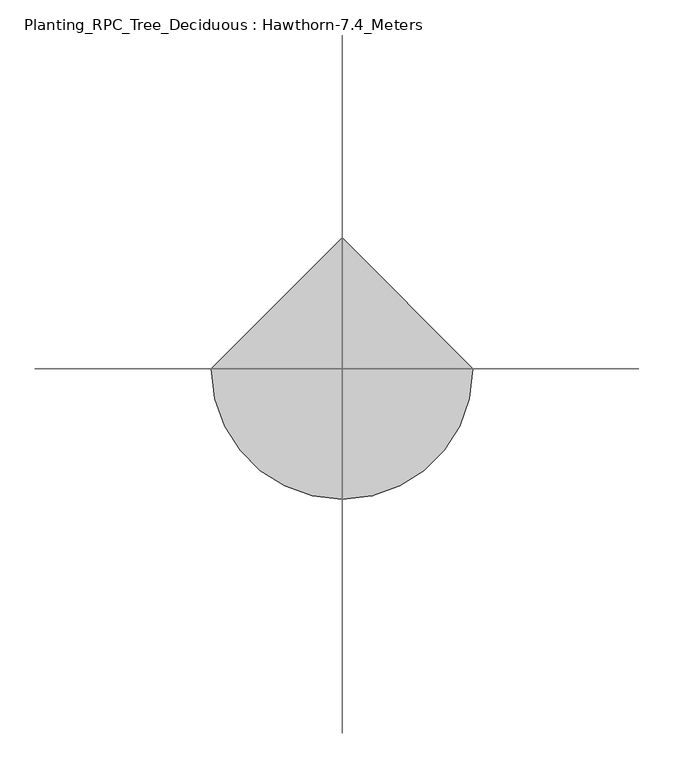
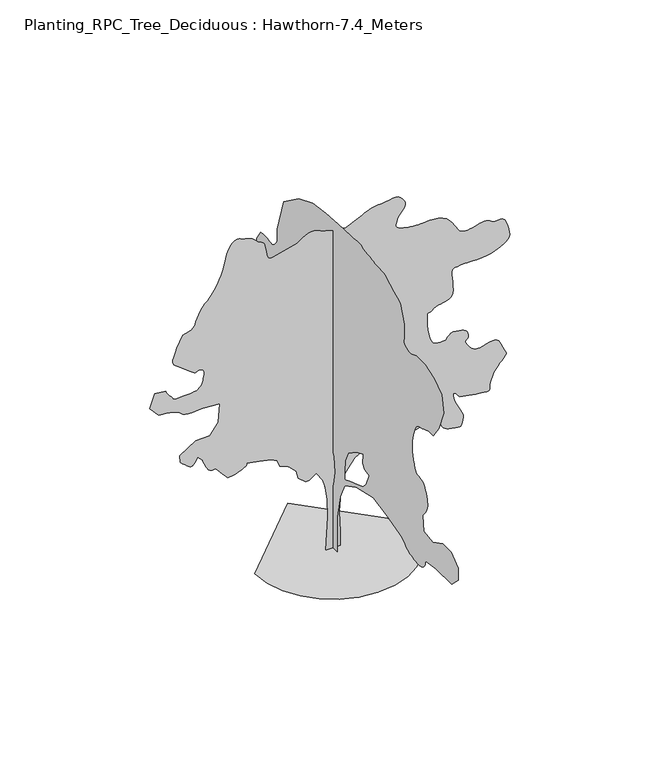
"""IFC4 building model written with IfcOpenShell, lengths in millimetres: geographic element geometry, Planting_RPC_Tree_Deciduous : Hawthorn-7.4_Meters."""

from ifc_helpers import new_model, si_unit, origin, place, context, project, spatial, triangles, source, transform, mapped, element, save


def planting_rpc_tree_deciduous_hawthorn_7_4_meters_c28d403f(model_context):
    return source(origin(), model_context, "Body", "Tessellation", [
        triangles([(154.5387321, 0.0003833, 0.0187505), (-149.642156, 0.0003833, 0.0187505), (-106.1871776, 0.0003405, 717.0148825), (-117.051113, 0.0003185, 1086.3780928), (-160.5051012, 0.0003017, 1368.8308376), (-203.9600796, 0.0002913, 1542.6492977), (-345.1849986, 0.0002797, 1738.1941933), (-486.4138418, 0.0002855, 1640.4205101), (-562.4586551, 0.0002862, 1629.557365), (-714.5482452, 0.0002784, 1759.9204834), (-758.0034416, 0.000268, 1933.7389435), (-910.0929955, 0.000259, 2085.8284973), (-1094.7746733, 0.0002544, 2161.8732742), (-1149.0930147, 0.0002467, 2292.2365379), (-1268.5930607, 0.0002428, 2357.4181698), (-1518.4538269, 0.0002395, 2411.7365112), (-1768.3170639, 0.0002369, 2455.1893822), (-1766.353521, 0.0002375, 2445.7838516), (-1766.5756004, 0.0002381, 2435.806263), (-1771.1684887, 0.0002388, 2424.6889183), (-1782.3178082, 0.0002395, 2411.8623756), (-1802.2065651, 0.0002404, 2396.7539955), (-1833.0250328, 0.0002415, 2378.7966614), (-1876.9538921, 0.0002428, 2357.4181698), (-1925.9491573, 0.000244, 2336.6735058), (-1970.9560032, 0.000245, 2320.4872845), (-2012.6351452, 0.0002457, 2308.1046101), (-2051.6577633, 0.0002463, 2298.760849), (-2088.6823929, 0.0002467, 2291.6987801), (-2124.375127, 0.000247, 2286.1562405), (-2159.4067097, 0.0002473, 2281.3732475), (-2278.906683, 0.0002395, 2411.7365112), (-2409.2698013, 0.0002305, 2563.8260651), (-2434.8615532, 0.0002307, 2559.4600525), (-2460.3567993, 0.0002309, 2556.7959709), (-2485.6575806, 0.0002308, 2557.5607498), (-2510.6941338, 0.0002305, 2563.4560295), (-2535.3362343, 0.0002297, 2576.1840317), (-2559.4847603, 0.0002285, 2597.4713951), (-2583.0908775, 0.0002266, 2628.995343), (-2604.4767815, 0.0002244, 2664.9841347), (-2622.4341156, 0.0002224, 2698.6785896), (-2637.5299965, 0.0002205, 2730.4740326), (-2650.3565392, 0.0002187, 2760.7646255), (-2661.4814415, 0.000217, 2789.8959869), (-2671.4465309, 0.0002153, 2818.2872772), (-2680.8692116, 0.0002136, 2846.2838242), (-2778.6231285, 0.0002078, 2944.0624489), (-2843.8171143, 0.0002136, 2846.2838242), (-2855.5832565, 0.0002147, 2827.9317467), (-2868.2371353, 0.0002157, 2811.3065987), (-2882.568528, 0.0002165, 2798.1097298), (-2899.4898788, 0.000217, 2790.0192352), (-2919.8150917, 0.0002171, 2788.7858803), (-2944.4324844, 0.0002166, 2796.1118866), (-2974.180378, 0.0002156, 2813.6991852), (-3007.1350525, 0.0002141, 2838.6124901), (-3039.7443993, 0.0002125, 2865.4498055), (-3070.2323639, 0.0002109, 2892.0897491), (-3096.9461403, 0.0002094, 2916.4356468), (-3118.1349632, 0.0002083, 2936.4158226), (-3132.0963203, 0.0002074, 2949.9330208), (-3137.1282806, 0.0002072, 2954.9158562), (-3147.9813972, 0.0001981, 3107.0103516), (-2822.0858826, 0.0001858, 3313.4207176), (-2528.7747162, 0.0001851, 3324.2741249), (-2354.9514599, 0.0001715, 3552.4157227), (-2322.3594086, 0.0001482, 3943.5055138), (-2680.8692116, 0.0001463, 3976.0901527), (-2757.4098885, 0.0001468, 3967.0866325), (-2832.3471748, 0.0001472, 3960.0074135), (-2904.0529724, 0.0001474, 3956.702092), (-2970.924472, 0.0001473, 3959.1193863), (-3031.3082863, 0.0001467, 3969.1338913), (-3083.6263138, 0.0001455, 3988.6452003), (-3126.2748734, 0.0001437, 4019.5526161), (-3169.2196358, 0.0001417, 4052.6799545), (-3222.4253998, 0.0001402, 4078.3824554), (-3284.1908157, 0.000139, 4097.9431801), (-3352.7886635, 0.0001382, 4112.5457771), (-3426.5173027, 0.0001375, 4123.4238922), (-3503.6745117, 0.000137, 4131.8600052), (-3582.5336517, 0.0001366, 4139.0377647), (-3767.2127861, 0.0001243, 4345.4484215), (-3658.5810448, 0.0001074, 4627.9061806), (-3441.3172714, 0.0001087, 4606.1746582), (-3427.2817909, 0.0001103, 4580.6201134), (-3412.8765656, 0.0001118, 4555.3367729), (-3397.7065613, 0.0001132, 4530.6455475), (-3381.3773254, 0.0001147, 4506.7929337), (-3363.5432396, 0.000116, 4484.0748436), (-3343.8098511, 0.0001173, 4462.812188), (-3321.807415, 0.0001184, 4443.2267555), (-3305.3052246, 0.0001195, 4424.7517204), (-3297.5600578, 0.0001206, 4407.2382545), (-3291.3194504, 0.0001215, 4391.624382), (-3279.3806442, 0.0001223, 4378.8716721), (-3254.5167549, 0.0001228, 4369.9175674), (-3209.5000259, 0.0001231, 4365.699511), (-3137.1282806, 0.000123, 4367.1796532), (-3056.9122467, 0.0001227, 4371.8415779), (-2991.4964722, 0.0001224, 4376.5035027), (-2938.4383736, 0.0001221, 4381.1410103), (-2895.2718224, 0.0001219, 4385.802935), (-2859.529818, 0.0001216, 4390.4648598), (-2828.6965256, 0.0001213, 4395.1270752), (-2800.3546509, 0.000121, 4399.7642921), (-2772.6046005, 0.0001198, 4420.8295761), (-2746.0137817, 0.0001185, 4442.5608078), (-2721.6925919, 0.0001171, 4465.6242256), (-2700.775264, 0.0001156, 4490.6607788), (-2684.4460281, 0.000114, 4518.3861214), (-2673.7899925, 0.0001121, 4549.4167854), (-2669.9913872, 0.00011, 4584.4434265), (-2666.1433662, 0.0001077, 4623.3427963), (-2657.7072533, 0.0001053, 4664.1414688), (-2649.4688026, 0.0001029, 4704.7427696), (-2646.1878983, 0.0001006, 4743.0747322), (-2652.5767525, 9.85e-05, 4777.0159744), (-2673.419957, 9.69e-05, 4804.5192375), (-2713.4538506, 9.58e-05, 4823.4631393), (-2753.6112831, 9.55e-05, 4827.7059036), (-2778.0065964, 9.61e-05, 4818.8259224), (-2796.1118866, 9.68e-05, 4806.3444168), (-2817.4730827, 9.72e-05, 4799.7584816), (-2851.5378639, 9.67e-05, 4808.5646301), (-2907.8518684, 9.47e-05, 4842.2590851), (-2995.9116096, 9.06e-05, 4910.363649), (-3093.616111, 8.61e-05, 4986.2136703), (-3172.3275856, 8.27e-05, 5042.3055954), (-3231.6507088, 8.01e-05, 5086.8040421), (-3271.1913185, 7.76e-05, 5127.8986267), (-3290.6040871, 7.49e-05, 5173.7045517), (-3289.4939804, 7.14e-05, 5232.460849), (-3267.4915443, 6.66e-05, 5312.3065567), (-3236.1646774, 6.15e-05, 5397.8257553), (-3207.1321472, 5.73e-05, 5469.6550919), (-3179.9742119, 5.37e-05, 5530.0886124), (-3154.3702515, 5.06e-05, 5581.3953644), (-3129.876107, 4.8e-05, 5625.8688126), (-3106.1470322, 4.56e-05, 5665.7797485), (-3082.8121193, 4.33e-05, 5703.3960571), (-3038.7575409, 4.28e-05, 5712.9669846), (-2995.7389458, 4.21e-05, 5724.0424713), (-2954.817025, 4.13e-05, 5738.1764923), (-2917.0277618, 4.01e-05, 5756.8736069), (-2883.4318474, 3.87e-05, 5781.6389557), (-2855.0652649, 3.67e-05, 5814.0015152), (-2832.9392899, 3.43e-05, 5855.4908432), (-2817.1771706, 3.18e-05, 5897.3749146), (-2805.2139473, 2.97e-05, 5932.401265), (-2794.1878761, 2.78e-05, 5964.3940796), (-2781.2625023, 2.58e-05, 5997.126384), (-2763.5766632, 2.36e-05, 6034.4473618), (-2738.3180305, 2.09e-05, 6080.10504), (-2702.5760262, 1.74e-05, 6137.9486023), (-2665.3294624, 1.43e-05, 6190.7349152), (-2634.7426666, 1.22e-05, 6225.120607), (-2606.8199524, 1.07e-05, 6250.5516129), (-2577.5406349, 9.2e-06, 6276.5506073), (-2542.9581528, 7e-06, 6312.612941), (-2499.0515305, 3.7e-06, 6368.2607071), (-2441.8593819, -1.3e-06, 6452.9910004), (-2383.0122471, -7.2e-06, 6551.6820694), (-2335.5683407, -1.27e-05, 6643.9107422), (-2297.6237091, -1.79e-05, 6731.2059952), (-2267.2812298, -2.29e-05, 6815.0723877), (-2242.6392746, -2.78e-05, 6897.0400589), (-2221.8008663, -3.27e-05, 6978.6368225), (-2202.8594353, -3.76e-05, 7061.3439835), (-2179.771455, -4.26e-05, 7144.3970535), (-2148.5114445, -4.72e-05, 7222.8858673), (-2110.218869, -5.14e-05, 7292.248494), (-2066.0359554, -5.47e-05, 7347.9212585), (-2017.1023144, -5.69e-05, 7385.3654846), (-1964.559882, -5.78e-05, 7399.9924988), (-1909.5434727, -5.7e-05, 7387.2647873), (-1854.9734024, -5.56e-05, 7363.9795807), (-1802.870042, -5.47e-05, 7347.3538513), (-1753.0508446, -5.38e-05, 7333.3924942), (-1705.3209091, -5.29e-05, 7318.0992416), (-1659.4902763, -5.17e-05, 7297.4778259), (-1615.3714577, -4.99e-05, 7267.5325607), (-1572.7721684, -4.73e-05, 7224.3165939), (-1533.465992, -4.5e-05, 7185.4666397), (-1499.1028278, -4.38e-05, 7165.0673035), (-1469.2981064, -4.31e-05, 7153.6220718), (-1443.6768505, -4.24e-05, 7141.5850159), (-1421.8543453, -4.11e-05, 7119.4834579), (-1403.4529976, -3.86e-05, 7077.797049), (-1388.0905632, -3.44e-05, 7007.0281128), (-1375.106036, -2.96e-05, 6926.4673325), (-1362.6913868, -2.57e-05, 6861.273056), (-1348.7547375, -2.27e-05, 6810.9284546), (-1331.2092968, -2.05e-05, 6774.8167053), (-1307.9610065, -1.92e-05, 6752.3948181), (-1276.9229301, -1.86e-05, 6743.0703873), (-1236.0010094, -1.88e-05, 6746.3021667), (-736.2770788, -2.66e-05, 6876.6651398), (-678.0613008, -2.91e-05, 6918.1050522), (-619.7543221, -3.14e-05, 6956.6835114), (-561.2549131, -3.33e-05, 6989.5396454), (-502.4718369, -3.48e-05, 7013.8858337), (-443.3064076, -3.55e-05, 7026.7862091), (-383.6674244, -3.55e-05, 7025.4787308), (-323.4585995, -3.44e-05, 7007.0281128), (-263.8837293, -3.28e-05, 6981.3256119), (-206.018257, -3.15e-05, 6959.5943802), (-149.57827, -3.04e-05, 6941.1931778), (-94.2786203, -2.95e-05, 6925.4557663), (-39.8339149, -2.87e-05, 6911.6914902), (14.0404504, -2.79e-05, 6899.2846893), (67.6297655, -2.72e-05, 6887.5429642), (263.1757965, -2.6e-05, 6865.8117325), (567.3549768, -3.37e-05, 6996.1752869), (611.7598246, -3.54e-05, 7023.9247559), (657.2106113, -3.7e-05, 7050.5155746), (704.7506601, -3.84e-05, 7074.8367645), (755.4257647, -3.97e-05, 7095.7540924), (810.2819366, -4.06e-05, 7112.0833282), (870.3648972, -4.13e-05, 7122.7396545), (936.7181871, -4.15e-05, 7126.5382599), (1008.7398811, -4.18e-05, 7131.6687607), (1083.2330812, -4.25e-05, 7143.6319839), (1157.346508, -4.33e-05, 7157.3224274), (1228.2285187, -4.39e-05, 7167.583429), (1293.0303772, -4.4e-05, 7169.2856506), (1348.9002228, -4.33e-05, 7157.3224274), (1392.9893921, -4.15e-05, 7126.5382599), (1427.384531, -3.91e-05, 7086.4302429), (1455.3195992, -3.69e-05, 7049.1836792), (1475.6522243, -3.48e-05, 7013.6637543), (1487.2455574, -3.27e-05, 6978.6862381), (1488.9550461, -3.06e-05, 6943.1418961), (1479.6432598, -2.83e-05, 6905.8953323), (1458.1685532, -2.6e-05, 6865.8117325), (1431.5655258, -2.38e-05, 6829.329657), (1407.6216385, -2.21e-05, 6801.3825256), (1386.3367458, -2.08e-05, 6778.5903122), (1367.713464, -1.95e-05, 6757.5003204), (1351.7516476, -1.81e-05, 6734.6836899), (1338.4489712, -1.65e-05, 6706.761557), (1327.8052895, -1.43e-05, 6670.254483), (1316.5943459, -1.2e-05, 6630.8865372), (1304.6235649, -9.9e-06, 6596.0822662), (1296.4515347, -8e-06, 6565.0760193), (1296.641494, -6.4e-06, 6537.1038895), (1309.7543564, -4.8e-06, 6511.426387), (1340.3482738, -3.4e-06, 6487.2528625), (1392.9893921, -2e-06, 6463.8444077), (1459.1822994, -8e-07, 6443.7409836), (1526.1375149, 1e-07, 6429.3354675), (1591.9529743, 6e-07, 6419.6662903), (1654.727195, 1e-06, 6413.8201355), (1712.5605835, 1.2e-06, 6410.8110168), (1763.5538372, 1.2e-06, 6409.7012009), (1805.805328, 1.2e-06, 6409.528537), (1853.5354088, 1.1e-06, 6412.1673294), (1918.9389748, 8e-07, 6417.2734131), (1997.0730137, 6e-07, 6420.652858), (2082.9993095, 7e-07, 6418.161731), (2171.7770302, 1.5e-06, 6405.5816849), (2258.4628727, 3.1e-06, 6378.7443695), (2338.1213825, 5.8e-06, 6333.4808533), (2404.5683441, 9.3e-06, 6273.6641556), (2457.3351814, 1.32e-05, 6208.69254), (2500.0380981, 1.71e-05, 6142.7831909), (2536.2733864, 2.09e-05, 6080.10504), (2569.6475121, 2.42e-05, 6024.8520172), (2603.7861259, 2.68e-05, 5981.1674744), (2642.2907524, 2.84e-05, 5953.2691772), (2685.4820114, 2.93e-05, 5939.3822342), (2730.9179008, 2.96e-05, 5934.0784882), (2778.2778008, 2.95e-05, 5935.879541), (2827.1425507, 2.9e-05, 5943.3779205), (2877.1418243, 2.83e-05, 5955.1684799), (2927.930294, 2.75e-05, 5969.7960754), (2979.0643822, 2.65e-05, 5985.8538162), (3025.5115471, 2.6e-05, 5994.8817535), (3071.169516, 2.55e-05, 6002.2080505), (3115.3229256, 2.53e-05, 6006.1054871), (3157.2067062, 2.54e-05, 6004.8718414), (3196.0322433, 2.58e-05, 5996.7810562), (3231.0588844, 2.68e-05, 5980.1559082), (3261.5221413, 2.84e-05, 5953.2691772), (3295.4880913, 2.96e-05, 5933.5360794), (3338.9261375, 2.97e-05, 5932.4262634), (3388.0865089, 2.93e-05, 5939.3078201), (3439.1464737, 2.9e-05, 5943.5011688), (3488.3071358, 2.96e-05, 5934.4238159), (3531.745182, 3.15e-05, 5901.3955994), (3565.711132, 3.56e-05, 5833.7596115), (3592.474324, 4.06e-05, 5749.3008133), (3614.8717941, 4.52e-05, 5672.809552), (3629.8444267, 4.92e-05, 5604.3102448), (3634.3831032, 5.28e-05, 5543.7784744), (3625.4042908, 5.6e-05, 5491.2386581), (3599.9238693, 5.86e-05, 5446.6657974), (3554.833017, 6.08e-05, 5410.0854721), (3500.9613052, 6.27e-05, 5377.6484985), (3448.4211983, 6.46e-05, 5346.1742569), (3393.2173004, 6.64e-05, 5316.5987366), (3331.353344, 6.8e-05, 5289.8602524), (3258.8580597, 6.93e-05, 5266.9197922), (3171.7354706, 7.04e-05, 5248.7406693), (3065.9895996, 7.12e-05, 5236.2594543), (2962.6116074, 7.15e-05, 5229.969722), (2881.4584213, 7.16e-05, 5228.4151657), (2816.8565506, 7.16e-05, 5229.722644), (2763.0586716, 7.14e-05, 5231.9672745), (2714.4160011, 7.14e-05, 5233.2503357), (2665.2059235, 7.14e-05, 5231.6963608), (2609.7061134, 7.18e-05, 5225.4060471), (2556.2041466, 7.22e-05, 5218.7215714), (2515.6522614, 7.25e-05, 5214.5032242), (2486.2741127, 7.28e-05, 5208.5832367), (2466.4250336, 7.35e-05, 5196.7682602), (2454.3580376, 7.48e-05, 5174.8887817), (2448.3714844, 7.7e-05, 5138.752034), (2446.7558853, 8.02e-05, 5084.1896667), (2451.1265488, 8.46e-05, 5010.8557709), (2460.4384804, 8.97e-05, 4925.9528137), (2468.9827263, 9.5e-05, 4836.4626366), (2471.0794006, 0.0001002, 4749.4632957), (2461.008213, 0.0001048, 4671.960759), (2433.0731449, 0.0001084, 4610.9848297), (2381.5741081, 0.0001107, 4573.5900192), (2319.0219669, 0.0001118, 4553.8569214), (2261.6004719, 0.0001127, 4539.4514053), (2209.119809, 0.0001134, 4527.6855537), (2161.3898735, 0.0001141, 4515.9441193), (2118.2207062, 0.000115, 4501.5388939), (2079.4201675, 0.0001161, 4481.8055054), (2044.8029491, 0.0001178, 4454.0801628), (2014.8403885, 0.0001191, 4432.4474716), (1990.0109447, 0.0001195, 4426.0342003), (1970.119717, 0.0001195, 4424.7270126), (1954.9818329, 0.0001199, 4418.4861145), (1944.4023914, 0.0001212, 4397.2481667), (1938.1937588, 0.0001239, 4350.8995422), (1936.1661209, 0.0001288, 4269.4010284), (1940.60117, 0.000135, 4165.1844246), (1953.0184353, 0.0001412, 4060.746032), (1972.08326, 0.0001472, 3961.2654762), (1996.4711609, 0.0001525, 3871.8488411), (2024.8500973, 0.0001569, 3797.6516258), (2055.8881737, 0.0001601, 3743.7796234), (2088.2581455, 0.0001618, 3715.3636253), (2125.4406143, 0.0001625, 3704.510218), (2168.895956, 0.0001628, 3698.9602661), (2214.2504551, 0.0001629, 3697.4062912), (2257.1359188, 0.0001628, 3698.5163979), (2293.1763062, 0.0001627, 3700.9584), (2318.0082207, 0.0001625, 3703.4004021), (2327.2582375, 0.0001625, 3704.510218), (2330.7090443, 0.000162, 3712.8230827), (2341.5721893, 0.0001607, 3733.8883667), (2360.60751, 0.0001591, 3761.7863731), (2388.5745529, 0.0001573, 3790.6462395), (2426.2331554, 0.0001559, 3814.5729767), (2474.3355972, 0.0001551, 3827.6463066), (2533.6587204, 0.0001554, 3823.9953667), (2594.8320213, 0.0001561, 3811.5141518), (2647.8159966, 0.0001568, 3799.9947968), (2692.4379822, 0.0001576, 3786.3787674), (2728.5006065, 0.0001587, 3767.6322372), (2755.8559135, 0.0001603, 3740.6963814), (2774.2571159, 0.0001626, 3702.5614998), (2783.5318405, 0.0001657, 3650.1943474), (2780.0538551, 0.0001685, 3602.8344475), (2764.9579742, 0.0001701, 3575.9971321), (2745.3231262, 0.000171, 3560.9750839), (2728.1552788, 0.0001717, 3548.9624451), (2720.5086525, 0.0001728, 3531.2518982), (2729.3639259, 0.0001747, 3499.1111275), (2761.8006088, 0.000178, 3443.7839813), (2805.9293106, 0.0001816, 3384.041407), (2846.0370369, 0.0001841, 3342.3547073), (2883.5056801, 0.0001857, 3315.4926842), (2919.6671356, 0.0001866, 3300.2485565), (2955.8035927, 0.000187, 3293.3420013), (2993.2722359, 0.0001871, 3291.565947), (3033.3802528, 0.0001871, 3291.6894859), (3083.0836143, 0.0001865, 3301.1859993), (3144.9475708, 0.0001852, 3322.4733627), (3213.8169136, 0.0001839, 3344.6978783), (3284.6099762, 0.0001832, 3357.0558449), (3352.1718407, 0.0001837, 3348.6938553), (3411.3720062, 0.0001861, 3308.7835007), (3457.0791, 0.000191, 3226.4955002), (3493.1417244, 0.0001964, 3135.4754745), (3524.8383362, 0.0002002, 3071.6383827), (3549.1351089, 0.0002028, 3027.5343887), (3562.9732178, 0.0002047, 2995.8130692), (3563.3429626, 0.0002063, 2969.0004616), (3547.1369751, 0.0002081, 2939.7458519), (3511.3952614, 0.0002104, 2900.5996948), (3469.3632339, 0.000213, 2857.4331436), (3435.54524, 0.0002153, 2820.3839516), (3408.510553, 0.0002173, 2788.4158447), (3386.9272774, 0.0002191, 2760.5178383), (3369.4385193, 0.0002207, 2735.6786568), (3354.6879662, 0.0002222, 2712.886734), (3341.2940163, 0.0002237, 2691.0813789), (3337.963987, 0.0002234, 2693.4739655), (3333.4253105, 0.0002233, 2692.0926544), (3326.4940475, 0.0002237, 2683.2620888), (3315.9612602, 0.0002247, 2663.2327881), (3300.6185921, 0.0002267, 2628.2799797), (3279.2326881, 0.0002298, 2574.6547646), (3250.668734, 0.0002343, 2498.6567871), (3229.134874, 0.000239, 2421.0802723), (3223.3628426, 0.0002424, 2363.6563065), (3223.8561264, 0.0002448, 2323.9084419), (3221.1429199, 0.0002462, 2299.3627018), (3205.6767128, 0.0002469, 2287.5499054), (3167.9862808, 0.000247, 2285.9957851), (3098.5742386, 0.0002467, 2292.2365379), (3013.9183594, 0.0002461, 2301.8638573), (2936.0952026, 0.0002455, 2312.0635254), (2863.9696632, 0.0002448, 2322.7368565), (2796.4077988, 0.0002442, 2333.7899609), (2732.2745041, 0.0002435, 2345.1292397), (2670.4352554, 0.0002428, 2356.6583324), (2609.7061134, 0.0002421, 2368.2813148), (2570.6340797, 0.0002393, 2416.1074654), (2534.497332, 0.0002368, 2457.5648186), (2504.2314468, 0.0002351, 2486.2988205), (2482.8208351, 0.0002345, 2495.9188728), (2473.2007828, 0.0002355, 2480.0829208), (2478.3068665, 0.0002383, 2432.4170803), (2501.0740814, 0.0002434, 2346.5548794), (2537.5067413, 0.0002493, 2247.0398781), (2578.280706, 0.0002545, 2161.0173672), (2618.5119713, 0.0002589, 2086.0184566), (2653.2179924, 0.0002629, 2019.5690243), (2677.4900574, 0.0002665, 1959.2023602), (2686.3453308, 0.0002699, 1902.4468128), (2674.9000992, 0.0002732, 1846.8285507), (2657.8799171, 0.0002761, 1797.4532215), (2649.2467232, 0.0002784, 1760.4261211), (2642.6854958, 0.0002799, 1734.8048653), (2631.9553368, 0.0002808, 1719.6325356), (2610.7668045, 0.0002811, 1713.9641315), (2572.8540024, 0.0002809, 1716.8452057), (2511.9274887, 0.0002803, 1727.3284321), (2443.842691, 0.0002795, 1740.8853081), (2387.5286865, 0.0002787, 1754.6319981), (2341.4761196, 0.0002778, 1770.0880314), (2304.1677864, 0.0002767, 1788.7730827), (2274.0793613, 0.0002753, 1812.2113323), (2249.6914604, 0.0002735, 1841.9198387), (2229.4845543, 0.0002713, 1879.4204567), (2216.7196358, 0.0002688, 1919.8663891), (2212.5089916, 0.0002666, 1956.8910187), (2212.0970982, 0.0002647, 1989.7346535), (2210.735408, 0.000263, 2017.6376015), (2203.6708683, 0.0002617, 2039.8400253), (2186.1575478, 0.0002608, 2055.5797623), (2153.4397774, 0.0002603, 2064.1022072), (2114.7033337, 0.00026, 2067.8070683), (2081.6697395, 0.0002599, 2069.802586), (2053.3870182, 0.0002599, 2070.372464), (2028.9029022, 0.0002599, 2069.802586), (2007.2726818, 0.00026, 2068.3768009), (1987.5392933, 0.0002601, 2066.3812832), (1968.7581722, 0.0002603, 2064.1022072), (1708.0317902, 0.0002661, 1966.328524), (1534.2133301, 0.000259, 2085.8284973), (1341.0438709, 0.0002626, 2015.5359856), (1370.1210205, 0.0002638, 1997.904213), (1395.1328659, 0.000265, 1979.658379), (1412.0148296, 0.0002662, 1960.1839863), (1416.7014622, 0.0002676, 1938.8646481), (1405.1278954, 0.0002691, 1915.0860123), (1373.2314411, 0.0002707, 1888.2338722), (1316.9446152, 0.0002726, 1857.6916958), (1256.1339375, 0.0002741, 1830.8987091), (1209.5731894, 0.0002751, 1814.9345673), (1171.566861, 0.0002755, 1808.6643105), (1136.4119574, 0.0002753, 1810.9433865), (1098.4055563, 0.0002748, 1820.6374168), (1051.847279, 0.0002738, 1836.5992332), (991.0366013, 0.0002726, 1857.6916958), (708.5813856, 0.0002674, 1944.6020885), (447.8549672, 0.0002758, 1803.3756798), (252.3101443, 0.0002913, 1542.6492977), (187.1297842, 0.0003023, 1357.9676926), (165.4019135, 0.0003159, 1129.8333618), (132.8118606, 0.0003386, 749.6069338), (154.5387321, 0.0003658, 293.3357107), (-0.0001194, -152.9413187, 0.0155948), (-0.0001194, 162.1054759, 0.0156136), (-9.83e-05, 172.6070515, 682.6172728), (-8.43e-05, 225.1146749, 1029.1687941), (-7.02e-05, 393.1394116, 1375.7202427), (-6.32e-05, 550.6630451, 1606.752943), (-5.62e-05, 823.7030651, 1795.7809399), (-4.21e-05, 1296.2739292, 2005.8124512), (-2.81e-05, 1852.8569618, 2068.8208145), (-2.81e-05, 2178.4048233, 1869.2924412), (-2.81e-05, 2419.9406616, 1837.7881142), (-2.11e-05, 2556.4506432, 2100.3276123), (-1.4e-05, 2776.9953209, 2131.831794), (-7e-06, 3239.0508385, 2163.3359756), (0.0, 3512.1106247, 2184.3396355), (7e-06, 3648.6156647, 2289.3554638), (7e-06, 3638.1322929, 2457.3796555), (1.4e-05, 3806.1368637, 2562.3953384), (1.4e-05, 3853.1514359, 2571.5221069), (1.4e-05, 3898.5873253, 2581.3886559), (1.4e-05, 3940.8908478, 2592.7106392), (2.11e-05, 3978.5074471, 2606.2281281), (2.11e-05, 4009.907856, 2622.70532), (2.11e-05, 4033.4645576, 2642.8581596), (2.11e-05, 4047.672702, 2667.401429), (2.11e-05, 4056.0593994, 2696.8534103), (2.11e-05, 4063.3606979, 2730.7205292), (2.11e-05, 4069.7245537, 2768.2632957), (2.81e-05, 4075.348629, 2808.7410576), (2.81e-05, 4080.4300049, 2851.4146156), (2.81e-05, 4085.166053, 2895.5677345), (2.81e-05, 4089.6800217, 2940.4609245), (3.51e-05, 3911.1673714, 3160.9808945), (2.81e-05, 3522.5937057, 3181.9967628), (2.11e-05, 3291.565947, 3013.967775), (2.11e-05, 3277.4566338, 3011.1804451), (2.11e-05, 3240.3827339, 3004.5203865), (2.11e-05, 3188.2373703, 2996.6022652), (1.4e-05, 3128.9389549, 2989.9669144), (1.4e-05, 3070.3556122, 2987.1795845), (1.4e-05, 3020.4301712, 2990.8058167), (1.4e-05, 2987.0316284, 3003.4596954), (1.4e-05, 2964.2149979, 3024.8208916), (1.4e-05, 2940.8556679, 3052.2750298), (1.4e-05, 2917.0277618, 3084.7361298), (1.4e-05, 2892.854528, 3121.2676208), (2.11e-05, 2868.3850914, 3160.8329384), (2.11e-05, 2843.7432816, 3202.4208069), (2.11e-05, 2819.0026405, 3244.9955338), (2.81e-05, 2766.4872414, 3507.5472404), (3.51e-05, 2987.0316284, 3675.5515205), (4.92e-05, 3155.060907, 3959.0946785), (4.92e-05, 2882.0011208, 4211.1385963), (4.21e-05, 2598.4579628, 4116.6158775), (3.51e-05, 2419.9406616, 3969.602758), (3.51e-05, 2220.4096722, 4106.1325058), (4.21e-05, 2220.4096722, 4337.1602646), (5.62e-05, 2409.4375237, 4547.1968628), (5.62e-05, 2449.8216866, 4569.6681656), (5.62e-05, 2489.4808937, 4591.9420967), (5.62e-05, 2527.6401924, 4613.8707001), (5.62e-05, 2563.6286934, 4635.2318962), (5.62e-05, 2596.6574913, 4655.8780197), (6.32e-05, 2626.0106415, 4675.5867004), (6.32e-05, 2650.973362, 4694.2099823), (6.32e-05, 2670.4105476, 4720.1839783), (6.32e-05, 2684.347197, 4760.4646591), (6.32e-05, 2693.6960449, 4812.7085632), (7.02e-05, 2699.3445374, 4874.4736885), (7.02e-05, 2702.2554062, 4943.4418625), (7.02e-05, 2703.3405144, 5017.1455032), (7.02e-05, 2703.4887611, 5093.2670197), (7.73e-05, 2566.9587227, 5303.3036179), (7.73e-05, 2562.0253029, 5304.437851), (7.73e-05, 2548.1133614, 5307.2254715), (7.73e-05, 2526.4562531, 5310.7525818), (7.73e-05, 2498.3855827, 5314.0826111), (7.73e-05, 2465.1620293, 5316.3028244), (7.73e-05, 2428.0830425, 5316.5249039), (7.73e-05, 2388.4364799, 5313.811116), (7.73e-05, 2346.3082375, 5307.7184647), (7.02e-05, 2302.157444, 5299.7759262), (7.02e-05, 2257.8241035, 5292.0304688), (7.02e-05, 2215.1458946, 5286.4808075), (7.02e-05, 2175.9555542, 5285.1733292), (7.02e-05, 2142.0930862, 5290.106749), (7.02e-05, 2115.39646, 5303.3036179), (7.02e-05, 2093.8105682, 5322.2228119), (7.02e-05, 2073.8799534, 5342.794812), (7.02e-05, 2055.325708, 5364.7481232), (7.02e-05, 2037.874157, 5387.8112503), (7.02e-05, 2021.2487183, 5411.6888626), (7.02e-05, 2005.1735367, 5436.1083023), (7.02e-05, 1989.3769718, 5460.8248169), (8.43e-05, 1978.8739792, 5723.3518158), (9.83e-05, 1758.3418007, 6458.4668289), (0.0001054, 1222.7624279, 6847.0402039), (0.0001054, 718.6873095, 7057.0523849), (9.83e-05, 256.6194016, 7120.0752823), (9.13e-05, -194.9473848, 7151.5751038), (8.43e-05, -636.0121233, 7172.5906815), (8.43e-05, -674.6820013, 7174.7858963), (8.43e-05, -731.9036539, 7179.9169785), (8.43e-05, -800.516399, 7185.8119675), (8.43e-05, -873.3545403, 7190.2029785), (8.43e-05, -943.2523813, 7190.9430496), (7.73e-05, -1003.0467693, 7185.8119675), (7.73e-05, -1045.5745514, 7172.5906815), (7.73e-05, -1089.3258053, 7155.7928696), (7.73e-05, -1152.5488358, 7141.2396881), (7.73e-05, -1227.7129978, 7128.4869781), (7.73e-05, -1307.2851757, 7117.2144104), (7.02e-05, -1383.7344337, 7107.0516586), (7.02e-05, -1449.5302723, 7097.628978), (7.02e-05, -1497.1394302, 7088.5760422), (7.02e-05, -1540.7992653, 7082.3107269), (7.02e-05, -1596.950489, 7079.7457672), (7.02e-05, -1661.367342, 7078.0929611), (6.32e-05, -1729.8272621, 7074.6146851), (6.32e-05, -1798.1020191, 7066.5244812), (6.32e-05, -1861.9689056, 7051.0829819), (6.32e-05, -1917.2024529, 7025.5531448), (6.32e-05, -1970.689595, 6993.1411697), (5.62e-05, -2031.3424335, 6959.0519714), (5.62e-05, -2097.9645298, 6923.6058792), (5.62e-05, -2169.3620613, 6887.049971), (4.92e-05, -2244.3438217, 6849.6551605), (4.92e-05, -2321.710611, 6811.7179413), (4.92e-05, -2400.2739841, 6773.509227), (3.51e-05, -2547.2994576, 6405.9764282), (2.11e-05, -2536.791378, 6069.9178711), (2.11e-05, -2528.1828918, 6054.0822098), (2.11e-05, -2521.9667015, 6037.8018082), (2.11e-05, -2520.5362656, 6020.5848358), (2.11e-05, -2526.2588814, 6002.0103882), (2.11e-05, -2541.5521339, 5981.5866348), (2.11e-05, -2568.7594849, 5958.8688354), (2.11e-05, -2610.2979378, 5933.3878326), (2.11e-05, -2660.1245476, 5913.1367432), (1.4e-05, -2710.4938568, 5904.9721252), (1.4e-05, -2761.307325, 5906.9452606), (1.4e-05, -2812.490538, 5916.9847641), (1.4e-05, -2863.9696632, 5933.0919205), (1.4e-05, -2915.621743, 5953.2447601), (1.4e-05, -2967.3476555, 5975.3951523), (7e-06, -3292.8981331, 5975.3951523), (0.0, -3618.44832, 5870.3893524), (-7e-06, -3881.0000267, 5681.3689133), (-2.11e-05, -3943.9987976, 5313.811116), (-2.81e-05, -3765.4861473, 4872.7470497), (-3.51e-05, -3576.4410004, 4610.195343), (-3.51e-05, -3542.4259254, 4610.0226791), (-3.51e-05, -3506.8565849, 4608.7401993), (-3.51e-05, -3468.1545868, 4605.2375061), (-3.51e-05, -3424.7659561, 4598.4541992), (-3.51e-05, -3375.136718, 4587.2307564), (-3.51e-05, -3317.7126068, 4570.531485), (-2.81e-05, -3250.8908134, 4547.1968628), (-2.81e-05, -3183.8713577, 4524.72556), (-2.81e-05, -3126.2254578, 4508.8649002), (-2.81e-05, -3077.0156708, 4495.9395264), (-2.81e-05, -3035.3536789, 4482.2740814), (-2.81e-05, -3000.30233, 4464.2182068), (-2.81e-05, -2970.9488892, 4438.0715469), (-2.81e-05, -2946.3564949, 4400.1590355), (-3.51e-05, -2922.2818016, 4345.7690414), (-3.51e-05, -2896.57901, 4276.1105026), (-3.51e-05, -2871.3945007, 4196.5357086), (-3.51e-05, -2848.9970306, 4112.3731133), (-4.21e-05, -2831.533271, 4028.950589), (-4.21e-05, -2821.247271, 3951.5713005), (-4.21e-05, -2820.334536, 3885.5881187), (-4.92e-05, -2829.0665611, 3818.100087), (-4.92e-05, -2845.1245926, 3737.9581764), (-4.92e-05, -2866.9052399, 3653.0310928), (-5.62e-05, -2892.706572, 3571.2116684), (-5.62e-05, -2920.9004906, 3500.4430229), (-6.32e-05, -2949.8344803, 3448.5691544), (-6.32e-05, -2977.855735, 3423.5326012), (-6.32e-05, -3011.22957, 3416.5519226), (-6.32e-05, -3054.5196602, 3411.396714), (-6.32e-05, -3103.5076584, 3404.786071), (-6.32e-05, -3153.9755081, 3393.3899643), (-6.32e-05, -3201.656028, 3373.9280708), (-7.02e-05, -3242.3808678, 3343.0700706), (-7.02e-05, -3271.9066818, 3297.5106422), (-7.02e-05, -3294.7974358, 3244.6993309), (-7.02e-05, -3317.5152351, 3193.8861534), (-7.73e-05, -3338.5805191, 3144.5775352), (-7.73e-05, -3356.5378532, 3096.1569443), (-7.73e-05, -3369.8826782, 3048.1310966), (-7.73e-05, -3377.159269, 2999.9075867), (-8.43e-05, -3376.9124817, 2950.9442963), (-8.43e-05, -3368.4272438, 2902.9678642), (-8.43e-05, -3352.7886635, 2857.7537636), (-8.43e-05, -3331.1806801, 2814.833709), (-8.43e-05, -3304.787233, 2773.7391243), (-8.43e-05, -3274.81726, 2734.0258507), (-8.43e-05, -3242.4547005, 2695.2500198), (-8.43e-05, -3208.8834938, 2656.9180573), (-9.83e-05, -3229.8993622, 2320.8596455), (-0.0001054, -3565.9576286, 2278.8523258), (-0.0001054, -3912.4995575, 2457.3796555), (-0.0001054, -4217.033876, 2457.3796555), (-0.0001194, -4458.5694237, 2257.8511368), (-0.0001264, -4469.0775032, 2005.8124512), (-0.0001264, -4227.5416649, 1774.7797508), (-0.0001194, -3660.4556396, 1764.2766129), (-0.0001194, -3303.4059219, 1711.7687714), (-0.0001194, -3293.9588242, 1667.0382168), (-0.0001194, -3281.7241058, 1623.9604683), (-0.0001194, -3264.0132683, 1584.1903667), (-0.0001194, -3238.0148552, 1549.3783928), (-0.0001194, -3200.9900803, 1521.1795326), (-0.0001194, -3150.2016106, 1501.2487724), (-0.0001194, -3082.8862427, 1491.2365929), (-0.0001194, -3010.6868706, 1489.7664791), (-0.0001194, -2946.380912, 1493.6243832), (-0.0001194, -2888.8829681, 1501.7076107), (-0.0001124, -2837.083223, 1512.9137581), (-0.0001124, -2789.8712791, 1526.1399857), (-0.0001124, -2746.1620285, 1540.2837444), (-0.0001124, -2704.8206566, 1554.2451015), (-0.0001124, -2662.5912575, 1573.5344765), (-0.0001124, -2617.796608, 1601.8246101), (-0.0001054, -2571.7194786, 1635.2577438), (-0.0001054, -2525.6420586, 1669.9785896), (-0.0001054, -2480.8474091, 1702.1241566), (-0.0001054, -2438.6380669, 1727.8439529), (-0.0001054, -2400.2739841, 1743.272953), (-9.13e-05, -1906.7017857, 1879.7954338), (-8.43e-05, -1444.6314434, 1963.8076023), (-7.73e-05, -825.0399748, 1816.7844543), (-7.73e-05, -415.4799811, 1596.2524212), (-8.43e-05, -257.9563477, 1270.7045597), (-9.83e-05, -152.9413187, 766.6293686), (-0.0001124, -152.9413187, 346.5663096), (7e-06, 340.6315338, 2110.8281342), (7e-06, 372.1357518, 1932.3008045), (0.0, 340.6315338, 1701.2681042), (-1.4e-05, 214.6130994, 1470.232933), (-2.11e-05, 67.591532, 1144.6851442), (-2.11e-05, -26.9226526, 1396.7214317), (-7e-06, -79.4302897, 1690.7651115), (0.0, -47.9255585, 2005.8124512), (7e-06, 67.591532, 2247.3481441), (1.4e-05, 172.6070515, 2331.3603127), (-3.51e-05, -1077.0788057, 2688.4172974), (-3.51e-05, -835.5430401, 2583.3867897), (-3.51e-05, -551.9999911, 2394.3711468), (-4.21e-05, -446.9842355, 2163.3359756), (-4.92e-05, -425.9805757, 1921.8002827), (-5.62e-05, -425.9805757, 1743.272953), (-5.62e-05, -594.0072744, 1806.2839325), (-5.62e-05, -877.5478889, 1900.7966228), (-5.62e-05, -1077.0788057, 1984.8112621), (-5.62e-05, -1182.0945614, 2100.3276123), (-4.92e-05, -1287.1102444, 2341.8633053), (-4.21e-05, -1129.5866472, 2383.8681541), (-4.21e-05, -1066.5757404, 2488.8887787), (-1602.6040684, 0.0, 9.55e-05), (-1560.2365963, -367.209817, 7.36e-05), (-1439.5747753, -704.4349091, 5.35e-05), (-1250.2780449, -1002.0107861, 3.58e-05), (-1002.0107861, -1250.2780449, 2.1e-05), (-704.4349091, -1439.5723045, 9.7e-06), (-367.209817, -1560.2365963, 2.5e-06), (6.32e-05, -1602.6040684, 0.0), (367.209817, -1560.2365963, 2.5e-06), (704.4349091, -1439.5723045, 9.7e-06), (1002.0107861, -1250.2780449, 2.1e-05), (1250.2780449, -1002.0107861, 3.58e-05), (1439.5723045, -704.4349091, 5.35e-05), (1560.2365963, -367.209817, 7.36e-05), (1602.6040684, 0.0001401, 9.55e-05), (-0.0002177, 1602.6040684, 0.000191)], [[403, 404, 405], [1, 2, 3], [491, 1, 3], [490, 491, 3], [490, 3, 4], [489, 490, 4], [489, 4, 5], [488, 489, 5], [84, 85, 86], [84, 86, 87], [83, 84, 87], [83, 87, 88], [83, 88, 89], [83, 89, 90], [82, 83, 90], [82, 90, 91], [82, 91, 92], [81, 82, 92], [81, 92, 93], [81, 93, 94], [81, 94, 95], [81, 95, 96], [81, 96, 97], [80, 81, 97], [80, 97, 98], [79, 80, 98], [79, 98, 99], [78, 79, 99], [78, 99, 100], [77, 78, 100], [77, 100, 101], [488, 5, 6], [487, 488, 6], [76, 77, 101], [76, 101, 102], [75, 76, 102], [74, 75, 102], [73, 74, 102], [73, 102, 103], [72, 73, 103], [72, 103, 104], [71, 72, 104], [71, 104, 105], [70, 71, 105], [70, 105, 106], [70, 106, 107], [69, 70, 107], [68, 69, 107], [68, 107, 108], [68, 108, 109], [68, 109, 110], [68, 110, 111], [68, 111, 112], [63, 64, 65], [62, 63, 65], [61, 62, 65], [60, 61, 65], [59, 60, 65], [58, 59, 65], [57, 58, 65], [56, 57, 65], [55, 56, 65], [54, 55, 65], [53, 54, 65], [52, 53, 65], [51, 52, 65], [50, 51, 65], [49, 50, 65], [48, 49, 65], [48, 65, 66], [47, 48, 66], [30, 31, 32], [467, 468, 469], [487, 6, 7], [486, 487, 7], [68, 112, 113], [8, 9, 10], [7, 8, 10], [7, 10, 11], [29, 30, 32], [414, 415, 416], [414, 416, 417], [413, 414, 417], [413, 417, 418], [412, 413, 418], [412, 418, 419], [141, 142, 143], [411, 412, 419], [411, 419, 420], [12, 13, 14], [28, 29, 32], [424, 425, 426], [27, 28, 32], [442, 443, 444], [441, 442, 444], [441, 444, 445], [440, 441, 445], [440, 445, 446], [439, 440, 446], [439, 446, 447], [438, 439, 447], [437, 438, 447], [436, 437, 447], [436, 447, 448], [435, 436, 448], [435, 448, 449], [435, 449, 450], [435, 450, 451], [435, 451, 452], [435, 452, 453], [435, 453, 454], [435, 454, 455], [435, 455, 456], [434, 435, 456], [434, 456, 457], [433, 434, 457], [433, 457, 458], [432, 433, 458], [432, 458, 459], [431, 432, 459], [431, 459, 460], [431, 460, 461], [430, 431, 461], [430, 461, 462], [430, 462, 463], [430, 463, 464], [411, 420, 421], [410, 411, 421], [410, 421, 422], [409, 410, 422], [409, 422, 423], [408, 409, 423], [408, 423, 424], [408, 424, 426], [408, 426, 427], [408, 427, 428], [407, 408, 428], [430, 464, 465], [406, 407, 428], [473, 474, 475], [472, 473, 475], [472, 475, 476], [471, 472, 476], [471, 476, 477], [470, 471, 477], [470, 477, 478], [470, 478, 479], [470, 479, 480], [470, 480, 481], [470, 481, 482], [470, 482, 483], [470, 483, 484], [470, 484, 485], [406, 428, 429], [26, 27, 32], [68, 113, 114], [25, 26, 32], [25, 32, 33], [24, 25, 33], [23, 24, 33], [22, 23, 33], [21, 22, 33], [20, 21, 33], [19, 20, 33], [18, 19, 33], [17, 18, 33], [46, 47, 66], [430, 465, 466], [45, 46, 66], [44, 45, 66], [43, 44, 66], [42, 43, 66], [41, 42, 66], [40, 41, 66], [39, 40, 66], [38, 39, 66], [37, 38, 66], [36, 37, 66], [35, 36, 66], [34, 35, 66], [33, 34, 66], [17, 33, 66], [17, 66, 67], [16, 17, 67], [15, 16, 67], [15, 67, 68], [68, 114, 115], [68, 115, 116], [68, 116, 117], [430, 466, 467], [430, 467, 469], [429, 430, 469], [403, 405, 406], [124, 125, 126], [123, 124, 126], [123, 126, 127], [403, 406, 429], [402, 403, 429], [401, 402, 429], [400, 401, 429], [399, 400, 429], [122, 123, 127], [122, 127, 128], [486, 7, 11], [486, 11, 12], [485, 486, 12], [485, 12, 14], [394, 395, 396], [393, 394, 396], [393, 396, 397], [392, 393, 397], [392, 397, 398], [391, 392, 398], [391, 398, 399], [391, 399, 429], [390, 391, 429], [389, 390, 429], [388, 389, 429], [387, 388, 429], [386, 387, 429], [385, 386, 429], [384, 385, 429], [383, 384, 429], [382, 383, 429], [381, 382, 429], [380, 381, 429], [379, 380, 429], [378, 379, 429], [377, 378, 429], [376, 377, 429], [376, 429, 469], [375, 376, 469], [374, 375, 469], [374, 469, 470], [374, 470, 485], [374, 485, 14], [373, 374, 14], [373, 14, 15], [373, 15, 68], [373, 68, 117], [373, 117, 118], [373, 118, 119], [372, 373, 119], [372, 119, 120], [325, 326, 327], [325, 327, 328], [324, 325, 328], [323, 324, 328], [323, 328, 329], [323, 329, 330], [322, 323, 330], [322, 330, 331], [321, 322, 331], [321, 331, 332], [320, 321, 332], [320, 332, 333], [319, 320, 333], [175, 176, 177], [174, 175, 177], [173, 174, 177], [173, 177, 178], [172, 173, 178], [172, 178, 179], [171, 172, 179], [170, 171, 179], [170, 179, 180], [170, 180, 181], [170, 181, 182], [170, 182, 183], [170, 183, 184], [169, 170, 184], [169, 184, 185], [168, 169, 185], [168, 185, 186], [167, 168, 186], [166, 167, 186], [166, 186, 187], [166, 187, 188], [166, 188, 189], [166, 189, 190], [166, 190, 191], [166, 191, 192], [166, 192, 193], [166, 193, 194], [166, 194, 195], [165, 166, 195], [164, 165, 195], [164, 195, 196], [163, 164, 196], [162, 163, 196], [162, 196, 197], [161, 162, 197], [160, 161, 197], [289, 290, 291], [289, 291, 292], [288, 289, 292], [288, 292, 293], [287, 288, 293], [287, 293, 294], [286, 287, 294], [286, 294, 295], [286, 295, 296], [286, 296, 297], [286, 297, 298], [286, 298, 299], [286, 299, 300], [286, 300, 301], [286, 301, 302], [286, 302, 303], [286, 303, 304], [286, 304, 305], [286, 305, 306], [285, 286, 306], [285, 306, 307], [284, 285, 307], [283, 284, 307], [282, 283, 307], [281, 282, 307], [280, 281, 307], [279, 280, 307], [278, 279, 307], [277, 278, 307], [276, 277, 307], [275, 276, 307], [275, 307, 308], [275, 308, 309], [274, 275, 309], [274, 309, 310], [273, 274, 310], [273, 310, 311], [273, 311, 312], [272, 273, 312], [272, 312, 313], [271, 272, 313], [271, 313, 314], [271, 314, 315], [271, 315, 316], [270, 271, 316], [270, 316, 317], [269, 270, 317], [268, 269, 317], [267, 268, 317], [266, 267, 317], [265, 266, 317], [264, 265, 317], [263, 264, 317], [262, 263, 317], [261, 262, 317], [260, 261, 317], [259, 260, 317], [258, 259, 317], [257, 258, 317], [256, 257, 317], [256, 317, 318], [255, 256, 318], [254, 255, 318], [253, 254, 318], [252, 253, 318], [252, 318, 319], [252, 319, 333], [252, 333, 334], [252, 334, 335], [252, 335, 336], [252, 336, 337], [252, 337, 338], [251, 252, 338], [250, 251, 338], [249, 250, 338], [249, 338, 339], [248, 249, 339], [369, 370, 371], [369, 371, 372], [368, 369, 372], [367, 368, 372], [366, 367, 372], [365, 366, 372], [364, 365, 372], [363, 364, 372], [362, 363, 372], [361, 362, 372], [360, 361, 372], [359, 360, 372], [358, 359, 372], [357, 358, 372], [356, 357, 372], [355, 356, 372], [354, 355, 372], [248, 339, 340], [140, 141, 143], [140, 143, 144], [139, 140, 144], [353, 354, 372], [132, 133, 134], [131, 132, 134], [131, 134, 135], [130, 131, 135], [130, 135, 136], [129, 130, 136], [129, 136, 137], [128, 129, 137], [122, 128, 137], [122, 137, 138], [122, 138, 139], [122, 139, 144], [122, 144, 145], [122, 145, 146], [121, 122, 146], [121, 146, 147], [120, 121, 147], [120, 147, 148], [120, 148, 149], [120, 149, 150], [120, 150, 151], [120, 151, 152], [120, 152, 153], [120, 153, 154], [120, 154, 155], [120, 155, 156], [120, 156, 157], [120, 157, 158], [120, 158, 159], [120, 159, 160], [120, 160, 197], [120, 197, 198], [120, 198, 199], [227, 228, 229], [227, 229, 230], [226, 227, 230], [226, 230, 231], [225, 226, 231], [225, 231, 232], [225, 232, 233], [225, 233, 234], [225, 234, 235], [225, 235, 236], [225, 236, 237], [225, 237, 238], [225, 238, 239], [225, 239, 240], [224, 225, 240], [224, 240, 241], [223, 224, 241], [223, 241, 242], [222, 223, 242], [222, 242, 243], [222, 243, 244], [222, 244, 245], [221, 222, 245], [220, 221, 245], [219, 220, 245], [218, 219, 245], [218, 245, 246], [217, 218, 246], [216, 217, 246], [215, 216, 246], [215, 246, 247], [214, 215, 247], [214, 247, 248], [214, 248, 340], [213, 214, 340], [212, 213, 340], [211, 212, 340], [211, 340, 341], [210, 211, 341], [209, 210, 341], [209, 341, 342], [208, 209, 342], [207, 208, 342], [207, 342, 343], [206, 207, 343], [205, 206, 343], [204, 205, 343], [203, 204, 343], [202, 203, 343], [201, 202, 343], [200, 201, 343], [199, 200, 343], [120, 199, 343], [120, 343, 344], [120, 344, 345], [120, 345, 346], [120, 346, 347], [120, 347, 348], [352, 353, 372], [351, 352, 372], [350, 351, 372], [349, 350, 372], [349, 372, 120], [349, 120, 348], [733, 741, 742], [741, 733, 734], [492, 731, 732], [492, 732, 733], [728, 492, 733], [727, 728, 733], [741, 734, 735], [733, 742, 743], [733, 743, 744], [741, 735, 736], [726, 727, 733], [726, 733, 744], [725, 726, 744], [724, 725, 744], [724, 744, 745], [724, 745, 746], [723, 724, 746], [723, 746, 747], [723, 747, 748], [741, 736, 737], [492, 493, 494], [723, 748, 749], [542, 543, 544], [542, 544, 545], [541, 542, 545], [541, 545, 546], [501, 502, 503], [500, 501, 503], [722, 723, 749], [506, 507, 508], [505, 506, 508], [641, 642, 643], [741, 737, 738], [696, 697, 698], [695, 696, 698], [695, 698, 699], [694, 695, 699], [693, 694, 699], [693, 699, 700], [692, 693, 700], [523, 524, 525], [522, 523, 525], [521, 522, 525], [521, 525, 526], [520, 521, 526], [519, 520, 526], [518, 519, 526], [517, 518, 526], [516, 517, 526], [515, 516, 526], [514, 515, 526], [513, 514, 526], [512, 513, 526], [511, 512, 526], [510, 511, 526], [509, 510, 526], [508, 509, 526], [505, 508, 526], [505, 526, 527], [505, 527, 528], [505, 528, 529], [505, 529, 530], [504, 505, 530], [504, 530, 531], [504, 531, 532], [504, 532, 533], [503, 504, 533], [503, 533, 534], [503, 534, 535], [500, 503, 535], [500, 535, 536], [500, 536, 537], [500, 537, 538], [500, 538, 539], [500, 539, 540], [500, 540, 541], [500, 541, 546], [500, 546, 547], [499, 500, 547], [641, 643, 644], [638, 639, 640], [638, 640, 641], [637, 638, 641], [637, 641, 644], [637, 644, 645], [637, 645, 646], [636, 637, 646], [636, 646, 647], [635, 636, 647], [634, 635, 647], [634, 647, 648], [634, 648, 649], [633, 634, 649], [633, 649, 650], [633, 650, 651], [632, 633, 651], [632, 651, 652], [632, 652, 653], [631, 632, 653], [631, 653, 654], [630, 631, 654], [630, 654, 655], [629, 630, 655], [629, 655, 656], [628, 629, 656], [749, 750, 751], [749, 751, 739], [563, 564, 565], [563, 565, 566], [563, 566, 567], [563, 567, 568], [563, 568, 569], [562, 563, 569], [562, 569, 570], [562, 570, 571], [562, 571, 572], [561, 562, 572], [561, 572, 573], [561, 573, 574], [560, 561, 574], [559, 560, 574], [559, 574, 575], [558, 559, 575], [557, 558, 575], [556, 557, 575], [555, 556, 575], [554, 555, 575], [553, 554, 575], [552, 553, 575], [551, 552, 575], [550, 551, 575], [549, 550, 575], [549, 575, 576], [549, 576, 577], [548, 549, 577], [548, 577, 578], [548, 578, 579], [498, 499, 547], [619, 620, 621], [628, 656, 657], [627, 628, 657], [586, 587, 588], [548, 579, 580], [618, 619, 621], [618, 621, 622], [618, 622, 623], [617, 618, 623], [617, 623, 624], [616, 617, 624], [615, 616, 624], [586, 588, 589], [585, 586, 589], [585, 589, 590], [585, 590, 591], [585, 591, 592], [627, 657, 658], [615, 624, 625], [614, 615, 625], [548, 580, 581], [498, 547, 548], [498, 548, 581], [498, 581, 582], [498, 582, 583], [498, 583, 584], [498, 584, 585], [498, 585, 592], [498, 592, 593], [497, 498, 593], [497, 593, 594], [497, 594, 595], [497, 595, 596], [497, 596, 597], [497, 597, 598], [497, 598, 599], [497, 599, 600], [497, 600, 601], [497, 601, 602], [497, 602, 603], [497, 603, 604], [497, 604, 605], [497, 605, 606], [497, 606, 607], [497, 607, 608], [497, 608, 609], [627, 658, 659], [613, 614, 625], [612, 613, 625], [611, 612, 625], [610, 611, 625], [609, 610, 625], [740, 741, 738], [626, 627, 659], [626, 659, 660], [722, 749, 739], [721, 722, 739], [609, 625, 626], [609, 626, 660], [609, 660, 661], [609, 661, 662], [609, 662, 663], [675, 676, 677], [674, 675, 677], [674, 677, 678], [673, 674, 678], [672, 673, 678], [672, 678, 679], [671, 672, 679], [671, 679, 680], [671, 680, 681], [671, 681, 682], [671, 682, 683], [671, 683, 684], [671, 684, 685], [671, 685, 686], [671, 686, 687], [671, 687, 688], [671, 688, 689], [671, 689, 690], [670, 671, 690], [670, 690, 691], [669, 670, 691], [692, 700, 701], [692, 701, 702], [692, 702, 703], [692, 703, 704], [692, 704, 705], [692, 705, 706], [692, 706, 707], [692, 707, 708], [692, 708, 709], [692, 709, 710], [692, 710, 711], [692, 711, 712], [692, 712, 713], [692, 713, 714], [692, 714, 715], [692, 715, 716], [692, 716, 717], [692, 717, 718], [692, 718, 719], [692, 719, 720], [692, 720, 721], [692, 721, 739], [691, 692, 739], [669, 691, 739], [668, 669, 739], [667, 668, 739], [666, 667, 739], [665, 666, 739], [664, 665, 739], [663, 664, 739], [609, 663, 739], [609, 739, 740], [609, 740, 738], [492, 494, 495], [731, 492, 495], [731, 495, 496], [731, 496, 497], [730, 731, 497], [729, 730, 497], [729, 497, 609], [729, 609, 738], [766, 767, 752], [765, 766, 752], [765, 752, 753], [764, 765, 753], [764, 753, 754], [764, 754, 755], [763, 764, 755], [762, 763, 755], [762, 755, 756], [762, 756, 757], [762, 757, 758], [762, 758, 759], [762, 759, 760], [762, 760, 761]], closed=False),
    ])


if __name__ == "__main__":
    model = new_model("IFC4")
    model_context = context("Model", 3, world=origin())
    ifc_project = project(units=[si_unit("LENGTHUNIT", "METRE", prefix="MILLI")], contexts=[model_context])
    site = spatial("IfcSite", under=ifc_project)
    building = spatial("IfcBuilding", under=site)
    placement = place(None, origin())
    planting_rpc_tree_deciduous_hawthorn_7_4_meters_shape = planting_rpc_tree_deciduous_hawthorn_7_4_meters_c28d403f(model_context)
    element("IfcGeographicElement", 1, ObjectType="Planting_RPC_Tree_Deciduous : Hawthorn-7.4_Meters", at=placement, inside=building, context=model_context, shape_type="MappedRepresentation", body=[
        mapped(planting_rpc_tree_deciduous_hawthorn_7_4_meters_shape, transform((0.0, 0.0, 0.0), x_axis=(1.0, 0.0, 0.0), y_axis=(0.0, 1.0, 0.0), z_axis=(0.0, 0.0, 1.0))),
    ])
    save(model, "model.ifc")
